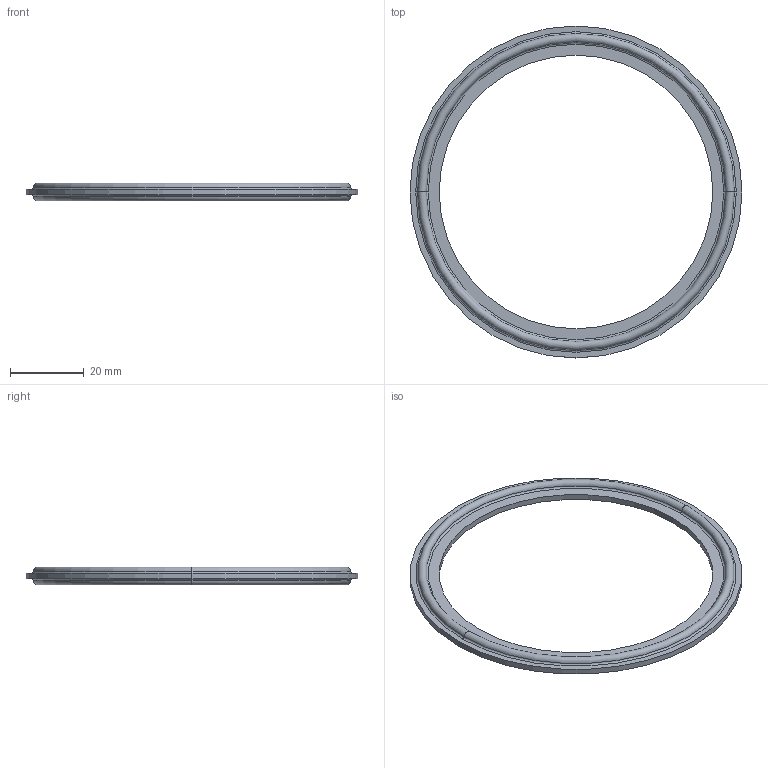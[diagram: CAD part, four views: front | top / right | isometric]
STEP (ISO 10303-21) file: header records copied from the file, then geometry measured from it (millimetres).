
FILE_DESCRIPTION (( 'STEP AP214' ), '1' );
FILE_NAME ('EG40 3.0 GASKET.STEP', '2024-10-10T10:45:05', ( '' ), ( '' ), 'SwSTEP 2.0', 'SolidWorks 2021', '' );
FILE_SCHEMA (( 'AUTOMOTIVE_DESIGN' ));
Length unit declared in the file: inch
Products named in the file (1): EG40 3.0 GASKET
Bounding box: 89.81 x 89.81 x 4.79 mm (x, y, z)
Volume: 4959.3 mm3; surface area: 5791 mm2
Topology: 1 solids, 1 shells, 20 faces, 40 edges, 24 vertices
Faces by surface type: torus 12, cylinder 4, plane 4
Entity records: 580 total; most frequent: DIRECTION 118, CARTESIAN_POINT 85, ORIENTED_EDGE 80, AXIS2_PLACEMENT_3D 57, EDGE_CURVE 40, CIRCLE 36, EDGE_LOOP 24, VERTEX_POINT 24
